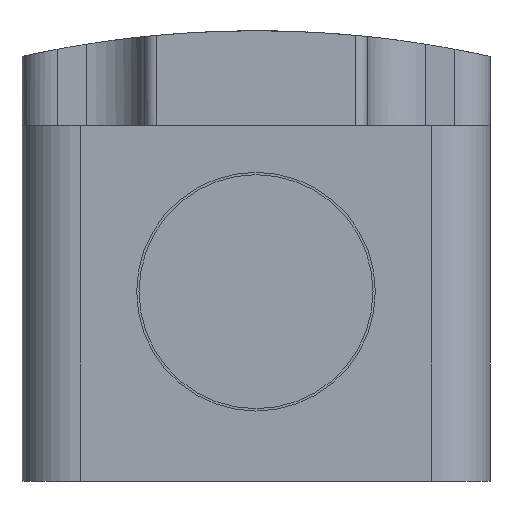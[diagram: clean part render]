
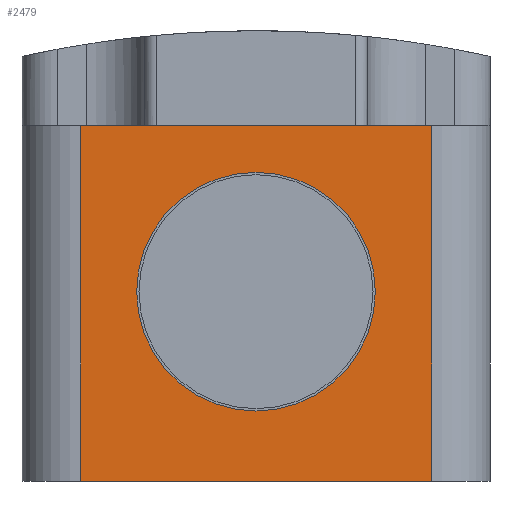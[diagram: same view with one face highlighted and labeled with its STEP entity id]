
A CAD part, front view. The second image highlights one B-rep face of the part: STEP entity #2479.
In plain terms, the highlighted planar face has unit normal (0, -1, 0).
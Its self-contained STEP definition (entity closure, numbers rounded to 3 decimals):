
#304 = LINE ( 'NONE', #5885, #7000 ) ;
#806 = EDGE_CURVE ( 'NONE', #16587, #17511, #1101, .T. ) ;
#906 = EDGE_CURVE ( 'NONE', #16798, #14382, #7830, .T. ) ;
#909 = CARTESIAN_POINT ( 'NONE',  ( 15., -66., 14.2 ) ) ;
#1101 = LINE ( 'NONE', #1961, #15807 ) ;
#1361 = ORIENTED_EDGE ( 'NONE', *, *, #13006, .T. ) ;
#1386 = CARTESIAN_POINT ( 'NONE',  ( 20., -66., 14.2 ) ) ;
#1475 = DIRECTION ( 'NONE',  ( 0., 0., -1. ) ) ;
#1961 = CARTESIAN_POINT ( 'NONE',  ( 20., -66., -16.2 ) ) ;
#2285 = CARTESIAN_POINT ( 'NONE',  ( 0., -66., 0. ) ) ;
#2340 = EDGE_LOOP ( 'NONE', ( #13069, #6831 ) ) ;
#2479 = ADVANCED_FACE ( 'NONE', ( #18020, #14237 ), #14578, .T. ) ;
#4082 = LINE ( 'NONE', #12896, #14552 ) ;
#4963 = DIRECTION ( 'NONE',  ( 0., -1., 0. ) ) ;
#5648 = EDGE_LOOP ( 'NONE', ( #16535, #17741, #12460, #1361 ) ) ;
#5701 = DIRECTION ( 'NONE',  ( 1., 0., 0. ) ) ;
#5885 = CARTESIAN_POINT ( 'NONE',  ( 15., -66., -16.2 ) ) ;
#6831 = ORIENTED_EDGE ( 'NONE', *, *, #906, .F. ) ;
#7000 = VECTOR ( 'NONE', #7335, 1000. ) ;
#7335 = DIRECTION ( 'NONE',  ( 0., 0., 1. ) ) ;
#7370 = CARTESIAN_POINT ( 'NONE',  ( 0., -66., 10.2 ) ) ;
#7830 = CIRCLE ( 'NONE', #7906, 10.2 ) ;
#7906 = AXIS2_PLACEMENT_3D ( 'NONE', #2285, #13330, #15283 ) ;
#7919 = VECTOR ( 'NONE', #5701, 1000. ) ;
#8586 = VERTEX_POINT ( 'NONE', #15735 ) ;
#11179 = CIRCLE ( 'NONE', #13621, 10.2 ) ;
#11279 = VERTEX_POINT ( 'NONE', #909 ) ;
#12177 = EDGE_CURVE ( 'NONE', #8586, #11279, #15905, .T. ) ;
#12276 = EDGE_CURVE ( 'NONE', #17511, #11279, #304, .T. ) ;
#12460 = ORIENTED_EDGE ( 'NONE', *, *, #12177, .F. ) ;
#12896 = CARTESIAN_POINT ( 'NONE',  ( -15., -66., -16.2 ) ) ;
#13006 = EDGE_CURVE ( 'NONE', #8586, #16587, #4082, .T. ) ;
#13069 = ORIENTED_EDGE ( 'NONE', *, *, #16341, .F. ) ;
#13330 = DIRECTION ( 'NONE',  ( 0., -1., 0. ) ) ;
#13484 = CARTESIAN_POINT ( 'NONE',  ( 0., -66., 0. ) ) ;
#13621 = AXIS2_PLACEMENT_3D ( 'NONE', #13484, #4963, #14915 ) ;
#13954 = CARTESIAN_POINT ( 'NONE',  ( -15., -66., -16.2 ) ) ;
#14237 = FACE_OUTER_BOUND ( 'NONE', #5648, .T. ) ;
#14342 = DIRECTION ( 'NONE',  ( 0., 0., -1. ) ) ;
#14382 = VERTEX_POINT ( 'NONE', #15633 ) ;
#14388 = DIRECTION ( 'NONE',  ( 0., -1., 0. ) ) ;
#14552 = VECTOR ( 'NONE', #1475, 1000. ) ;
#14578 = PLANE ( 'NONE',  #17486 ) ;
#14852 = CARTESIAN_POINT ( 'NONE',  ( 20., -66., -16.2 ) ) ;
#14915 = DIRECTION ( 'NONE',  ( 0., 0., -1. ) ) ;
#14967 = DIRECTION ( 'NONE',  ( 1., 0., 0. ) ) ;
#15283 = DIRECTION ( 'NONE',  ( 0., 0., -1. ) ) ;
#15633 = CARTESIAN_POINT ( 'NONE',  ( 0., -66., -10.2 ) ) ;
#15735 = CARTESIAN_POINT ( 'NONE',  ( -15., -66., 14.2 ) ) ;
#15807 = VECTOR ( 'NONE', #14967, 1000. ) ;
#15905 = LINE ( 'NONE', #1386, #7919 ) ;
#16341 = EDGE_CURVE ( 'NONE', #14382, #16798, #11179, .T. ) ;
#16535 = ORIENTED_EDGE ( 'NONE', *, *, #806, .T. ) ;
#16587 = VERTEX_POINT ( 'NONE', #13954 ) ;
#16592 = CARTESIAN_POINT ( 'NONE',  ( 15., -66., -16.2 ) ) ;
#16798 = VERTEX_POINT ( 'NONE', #7370 ) ;
#17486 = AXIS2_PLACEMENT_3D ( 'NONE', #14852, #14388, #14342 ) ;
#17511 = VERTEX_POINT ( 'NONE', #16592 ) ;
#17741 = ORIENTED_EDGE ( 'NONE', *, *, #12276, .T. ) ;
#18020 = FACE_BOUND ( 'NONE', #2340, .T. ) ;
